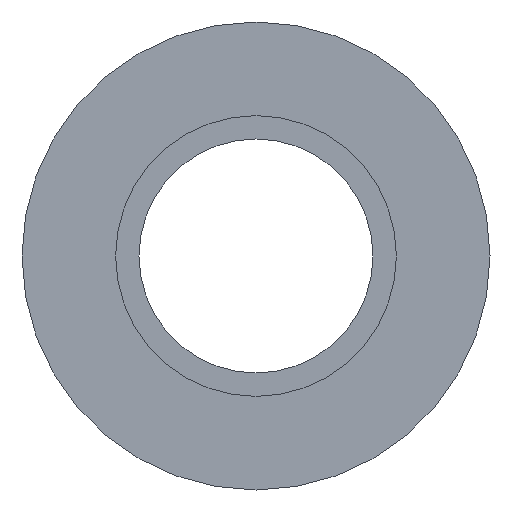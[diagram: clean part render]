
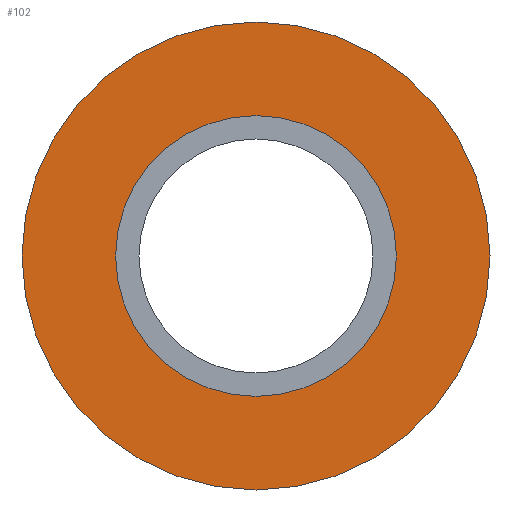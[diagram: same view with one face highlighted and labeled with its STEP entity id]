
A CAD part, left-side view. The second image highlights one B-rep face of the part: STEP entity #102.
In plain terms, the highlighted planar face has unit normal (-1, 0, 0).
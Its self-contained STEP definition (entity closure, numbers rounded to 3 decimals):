
#28=ORIENTED_EDGE('',*,*,#43,.F.);
#29=ORIENTED_EDGE('',*,*,#42,.T.);
#42=EDGE_CURVE('',#50,#50,#58,.T.);
#43=EDGE_CURVE('',#51,#51,#59,.T.);
#50=VERTEX_POINT('',#179);
#51=VERTEX_POINT('',#182);
#58=CIRCLE('',#125,3.);
#59=CIRCLE('',#127,5.);
#68=EDGE_LOOP('',(#28));
#69=EDGE_LOOP('',(#29));
#84=FACE_BOUND('',#68,.T.);
#85=FACE_BOUND('',#69,.T.);
#97=PLANE('',#126);
#102=ADVANCED_FACE('',(#84,#85),#97,.F.);
#125=AXIS2_PLACEMENT_3D('',#178,#147,#148);
#126=AXIS2_PLACEMENT_3D('',#180,#149,#150);
#127=AXIS2_PLACEMENT_3D('',#181,#151,#152);
#147=DIRECTION('',(1.,0.,0.));
#148=DIRECTION('',(0.,0.,-1.));
#149=DIRECTION('',(1.,0.,0.));
#150=DIRECTION('',(0.,0.,-1.));
#151=DIRECTION('',(1.,0.,0.));
#152=DIRECTION('',(0.,0.,-1.));
#178=CARTESIAN_POINT('',(2.5,0.,0.));
#179=CARTESIAN_POINT('',(2.5,0.,-3.));
#180=CARTESIAN_POINT('',(2.5,3.,0.));
#181=CARTESIAN_POINT('',(2.5,0.,0.));
#182=CARTESIAN_POINT('',(2.5,0.,-5.));
